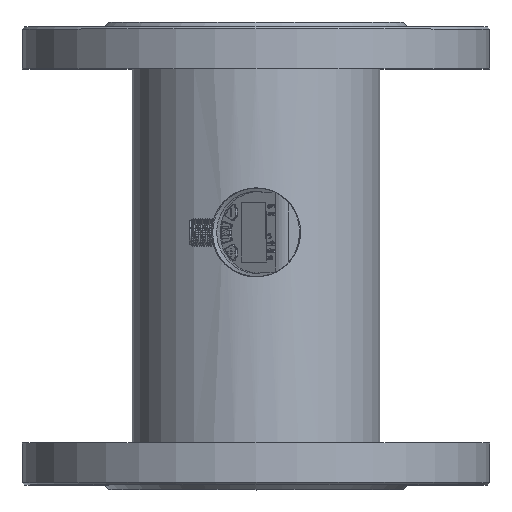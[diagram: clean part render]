
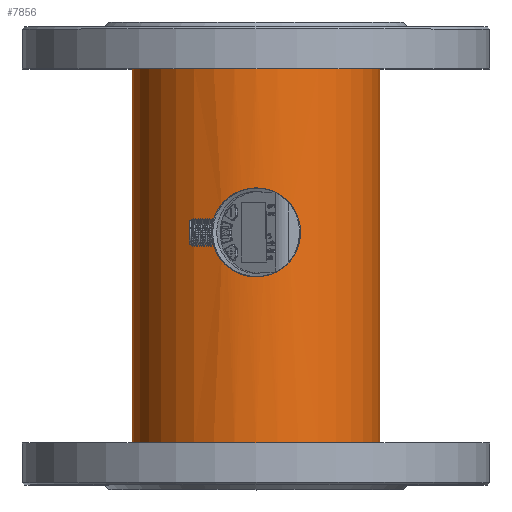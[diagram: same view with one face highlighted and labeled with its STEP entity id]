
A CAD part, top view. The second image highlights one B-rep face of the part: STEP entity #7856.
In plain terms, the highlighted cylindrical face has radius 53 mm (diameter 106 mm), a full revolution.
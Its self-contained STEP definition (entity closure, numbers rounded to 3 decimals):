
#6075=CYLINDRICAL_SURFACE('',#23440,53.);
#6861=B_SPLINE_CURVE_WITH_KNOTS('',3,(#44031,#44032,#44033,#44034,#44035,
#44036,#44037,#44038,#44039,#44040),.UNSPECIFIED.,.F.,.F.,(4,2,2,2,4),(0.,
0.25,0.5,0.75,1.),.UNSPECIFIED.);
#6862=B_SPLINE_CURVE_WITH_KNOTS('',3,(#44044,#44045,#44046,#44047,#44048,
#44049,#44050,#44051,#44052,#44053),.UNSPECIFIED.,.F.,.F.,(4,2,2,2,4),(0.,
0.25,0.5,0.75,1.),.UNSPECIFIED.);
#7856=ADVANCED_FACE('',(#8765,#8766,#8767),#6075,.T.);
#8765=FACE_BOUND('',#10058,.T.);
#8766=FACE_BOUND('',#10059,.T.);
#8767=FACE_BOUND('',#10060,.T.);
#10058=EDGE_LOOP('',(#15456));
#10059=EDGE_LOOP('',(#15457,#15458,#15459,#15460));
#10060=EDGE_LOOP('',(#15461));
#10775=CIRCLE('',#23437,53.);
#10776=CIRCLE('',#23439,53.);
#15456=ORIENTED_EDGE('',*,*,#19675,.F.);
#15457=ORIENTED_EDGE('',*,*,#19676,.F.);
#15458=ORIENTED_EDGE('',*,*,#19677,.T.);
#15459=ORIENTED_EDGE('',*,*,#19678,.F.);
#15460=ORIENTED_EDGE('',*,*,#19679,.T.);
#15461=ORIENTED_EDGE('',*,*,#19674,.F.);
#17281=VERTEX_POINT('',#44024);
#17282=VERTEX_POINT('',#44027);
#17283=VERTEX_POINT('',#44029);
#17284=VERTEX_POINT('',#44030);
#17285=VERTEX_POINT('',#44041);
#17286=VERTEX_POINT('',#44043);
#19674=EDGE_CURVE('',#17281,#17281,#10775,.T.);
#19675=EDGE_CURVE('',#17282,#17282,#10776,.T.);
#19676=EDGE_CURVE('',#17283,#17284,#20775,.T.);
#19677=EDGE_CURVE('',#17283,#17285,#6861,.T.);
#19678=EDGE_CURVE('',#17286,#17285,#20776,.T.);
#19679=EDGE_CURVE('',#17286,#17284,#6862,.T.);
#20775=LINE('',#44028,#21953);
#20776=LINE('',#44042,#21954);
#21953=VECTOR('',#27647,1.);
#21954=VECTOR('',#27648,1.);
#23437=AXIS2_PLACEMENT_3D('',#44023,#27641,#27642);
#23439=AXIS2_PLACEMENT_3D('',#44026,#27645,#27646);
#23440=AXIS2_PLACEMENT_3D('',#44054,#27649,#27650);
#27641=DIRECTION('',(0.,1.,0.));
#27642=DIRECTION('',(0.,0.,-1.));
#27645=DIRECTION('',(0.,-1.,0.));
#27646=DIRECTION('',(0.,0.,-1.));
#27647=DIRECTION('',(0.,-1.,0.));
#27648=DIRECTION('',(0.,1.,0.));
#27649=DIRECTION('',(0.,-1.,0.));
#27650=DIRECTION('',(0.,0.,-1.));
#44023=CARTESIAN_POINT('',(25.5,106.642,-145.224));
#44024=CARTESIAN_POINT('',(25.5,106.642,-198.224));
#44026=CARTESIAN_POINT('',(25.5,-53.358,-145.224));
#44027=CARTESIAN_POINT('',(25.5,-53.358,-198.224));
#44028=CARTESIAN_POINT('',(11.078,36.401,-94.224));
#44029=CARTESIAN_POINT('',(11.078,42.261,-94.224));
#44030=CARTESIAN_POINT('',(11.078,30.541,-94.224));
#44031=CARTESIAN_POINT('',(11.078,42.261,-94.224));
#44032=CARTESIAN_POINT('',(12.268,45.099,-93.888));
#44033=CARTESIAN_POINT('',(14.303,47.504,-93.357));
#44034=CARTESIAN_POINT('',(19.383,50.839,-92.516));
#44035=CARTESIAN_POINT('',(22.408,51.752,-92.225));
#44036=CARTESIAN_POINT('',(28.581,51.753,-92.224));
#44037=CARTESIAN_POINT('',(31.621,50.837,-92.516));
#44038=CARTESIAN_POINT('',(36.694,47.508,-93.356));
#44039=CARTESIAN_POINT('',(38.73,45.098,-93.887));
#44040=CARTESIAN_POINT('',(39.922,42.26,-94.224));
#44041=CARTESIAN_POINT('',(39.922,42.26,-94.224));
#44042=CARTESIAN_POINT('',(39.922,-879.758,-94.224));
#44043=CARTESIAN_POINT('',(39.922,30.541,-94.224));
#44044=CARTESIAN_POINT('',(39.922,30.541,-94.224));
#44045=CARTESIAN_POINT('',(38.729,27.703,-93.887));
#44046=CARTESIAN_POINT('',(36.697,25.294,-93.357));
#44047=CARTESIAN_POINT('',(31.617,21.96,-92.516));
#44048=CARTESIAN_POINT('',(28.591,21.049,-92.225));
#44049=CARTESIAN_POINT('',(22.417,21.045,-92.224));
#44050=CARTESIAN_POINT('',(19.378,21.964,-92.516));
#44051=CARTESIAN_POINT('',(14.304,25.293,-93.357));
#44052=CARTESIAN_POINT('',(12.27,27.703,-93.887));
#44053=CARTESIAN_POINT('',(11.078,30.541,-94.224));
#44054=CARTESIAN_POINT('',(25.5,-879.758,-145.224));
